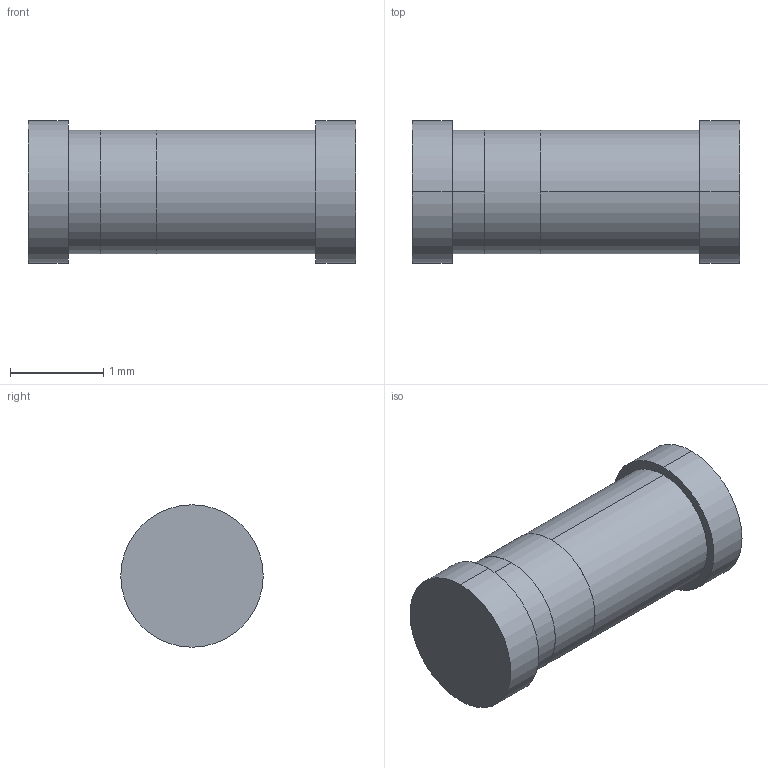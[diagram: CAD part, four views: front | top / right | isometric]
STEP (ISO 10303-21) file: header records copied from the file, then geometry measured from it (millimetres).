
FILE_DESCRIPTION (( 'STEP AP214' ), '1' );
FILE_NAME ( 'DIOMELF3515.STEP', '2014-04-11T12:31:19', ( '' ), ( '' ), 'FPX Expert 2013', 'PCB Libraries', '' );
FILE_SCHEMA (( 'AUTOMOTIVE_DESIGN' ));
Length unit declared in the file: millimetre
Products named in the file (1): DIOMELF3515
Bounding box: 3.5 x 1.52 x 1.52 mm (x, y, z)
Volume: 4.2 mm3; surface area: 30.4 mm2
Topology: 3 solids, 5 shells, 18 faces, 30 edges, 20 vertices
Faces by surface type: cylinder 10, plane 8
Full cylindrical faces by diameter (mm): 1.327 x2
Entity records: 543 total; most frequent: DIRECTION 88, CARTESIAN_POINT 69, ORIENTED_EDGE 60, AXIS2_PLACEMENT_3D 39, EDGE_CURVE 30, STYLED_ITEM 22, PRESENTATION_LAYER_ASSIGNMENT 22, MECHANICAL_DESIGN_GEOMETRIC_PRESENTATION_REPRESENTATION 22
